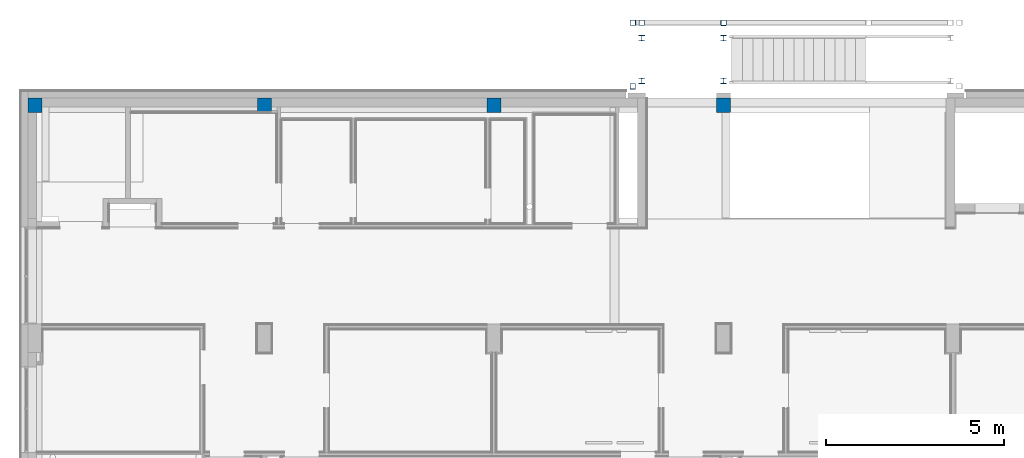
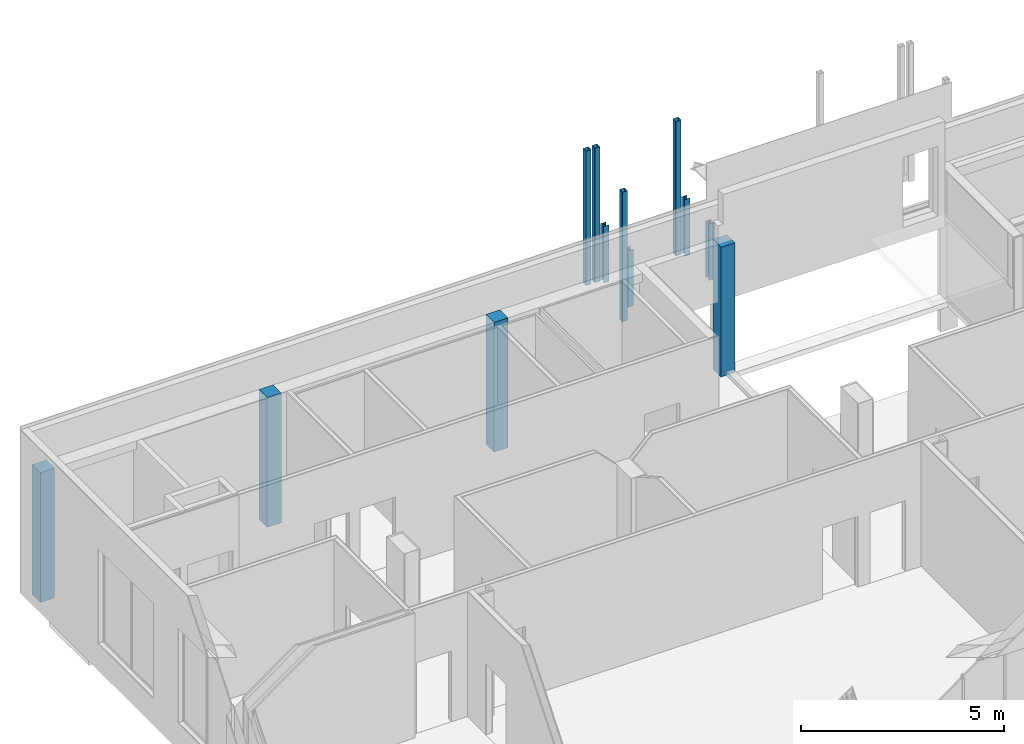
# One storey, part 3 of 29: 12 columns.
"""IFC2X3 building model written with IfcOpenShell, lengths in centimetres."""

import ifcopenshell
import ifcopenshell.guid

model = None  # the IFC model being written
_history = None  # IfcOwnerHistory: only IFC2X3 demands one
_inside = {}  # id of a spatial element -> (the spatial element, [elements in it])
_under = {}  # id of a project, library or spatial element -> (it, [spatial elements below it])
_declared = {}  # id of a project -> (the project, [libraries it declares])
_typed = {}  # id of a type object -> (the type object, [elements of that type])
_made_of = {}  # id of a material, layer set ... -> (it, [elements and type objects made of it])


def new_model(schema):
    """Start an empty IFC model of exactly this schema.

    Asked for "IFC4X3", IfcOpenShell would pick the latest addendum, in which some entities
    have other attributes; the version numbers below select the first issue.
    IFC2X3 requires an IfcOwnerHistory on every rooted entity: one is made here for all.
    """
    global model, _history
    if schema == "IFC4X3":
        model = ifcopenshell.file(schema_version=(4, 3, 0, 0))
    else:
        model = ifcopenshell.file(schema=schema)
    _inside.clear()
    _under.clear()
    _declared.clear()
    _typed.clear()
    _made_of.clear()
    _history = None
    if model.schema == "IFC2X3":
        org = make("IfcOrganization", Name="unknown")
        user = make(
            "IfcPersonAndOrganization",
            ThePerson=make("IfcPerson", FamilyName="unknown"),
            TheOrganization=org,
        )
        app = make(
            "IfcApplication",
            ApplicationDeveloper=org,
            Version="unknown",
            ApplicationFullName="unknown",
            ApplicationIdentifier="unknown",
        )
        _history = make(
            "IfcOwnerHistory",
            OwningUser=user,
            OwningApplication=app,
            ChangeAction="ADDED",
            CreationDate=0,
        )
    return model


def make(cls, **values):
    """One entity of the class cls with the attributes given. An attribute that is None is left unset."""
    return model.create_entity(
        cls, **{name: value for name, value in values.items() if value is not None}
    )


def entity(cls, *values):
    """Any entity or typed value of the class cls, its attributes in the order of the schema. None: left unset."""
    e = model.create_entity(cls)
    for i, value in enumerate(values):
        if value is not None:
            e[i] = value
    return e


def rooted(cls, **values):
    """An entity with a GlobalId (a new one), such as an element, a storey or a relation."""
    return make(cls, GlobalId=ifcopenshell.guid.new(), OwnerHistory=_history, **values)


def si_unit(unit_type, name, prefix=None):
    """IfcSIUnit, for example si_unit("LENGTHUNIT", "METRE", prefix="MILLI")."""
    return make("IfcSIUnit", UnitType=unit_type, Prefix=prefix, Name=name)


def converted_unit(unit_type, name, factor, base, dimensions=None, offset=None):
    """IfcConversionBasedUnit, such as the inch: factor (a typed value) times the base unit."""
    return make(
        "IfcConversionBasedUnit"
        if offset is None
        else "IfcConversionBasedUnitWithOffset",
        ConversionOffset=offset,
        Dimensions=None
        if dimensions is None
        else entity("IfcDimensionalExponents", *dimensions),
        UnitType=unit_type,
        Name=name,
        ConversionFactor=make(
            "IfcMeasureWithUnit", ValueComponent=factor, UnitComponent=base
        ),
    )


def derived_unit(unit_type, elements):
    """IfcDerivedUnit: a product of units, each with its exponent."""
    return make(
        "IfcDerivedUnit",
        Elements=[
            make("IfcDerivedUnitElement", Unit=unit, Exponent=power)
            for unit, power in elements
        ],
        UnitType=unit_type,
    )


def assignment(units):
    """IfcUnitAssignment: the units of a project."""
    return None if units is None else make("IfcUnitAssignment", Units=units)


def point(xyz):
    """IfcCartesianPoint."""
    return None if xyz is None else make("IfcCartesianPoint", Coordinates=xyz)


def direction(xyz):
    """IfcDirection."""
    return None if xyz is None else make("IfcDirection", DirectionRatios=xyz)


def frame(location, z_axis=None, x_axis=None):
    """IfcAxis2Placement3D, a coordinate frame: its origin and axes. An axis left out is left unset."""
    return make(
        "IfcAxis2Placement3D",
        Location=point(location),
        Axis=direction(z_axis),
        RefDirection=direction(x_axis),
    )


def frame_2d(location, x_axis=None):
    """IfcAxis2Placement2D, a coordinate frame in the plane: its origin and x axis."""
    return make(
        "IfcAxis2Placement2D", Location=point(location), RefDirection=direction(x_axis)
    )


def origin():
    """The frame at (0, 0, 0) with its axes left unset."""
    return frame((0.0, 0.0, 0.0))


def origin_2d_with_axis():
    """The frame at (0, 0) in the plane with the x axis (1, 0) written out."""
    return frame_2d((0.0, 0.0), x_axis=(1.0, 0.0))


def place(relative_to, where):
    """IfcLocalPlacement: puts the frame where relative to a parent placement (None: the world)."""
    return make(
        "IfcLocalPlacement", PlacementRelTo=relative_to, RelativePlacement=where
    )


def context(
    kind, dimensions, precision=None, world=None, true_north=None, identifier=None
):
    """IfcGeometricRepresentationContext, for example the 3D "Model" context."""
    return make(
        "IfcGeometricRepresentationContext",
        ContextIdentifier=identifier,
        ContextType=kind,
        CoordinateSpaceDimension=dimensions,
        Precision=precision,
        WorldCoordinateSystem=world,
        TrueNorth=true_north,
    )


def subcontext(parent, identifier, kind, view, scale=None):
    """IfcGeometricRepresentationSubContext, for example "Body" below "Model"."""
    return make(
        "IfcGeometricRepresentationSubContext",
        ContextIdentifier=identifier,
        ContextType=kind,
        ParentContext=parent,
        TargetScale=scale,
        TargetView=view,
    )


def project(units=None, contexts=None):
    """IfcProject with its units and contexts."""
    return rooted(
        "IfcProject",
        Name="project",
        RepresentationContexts=contexts,
        UnitsInContext=assignment(units),
    )


def spatial(cls, under=None, at=None, **own):
    """A site, building, storey or space (cls), placed at a placement, below another one or the project."""
    s = rooted(cls, ObjectPlacement=at, **own)
    if under is not None:
        _under.setdefault(under.id(), (under, []))[1].append(s)
    return s


def polyline(points):
    """IfcPolyline through the points."""
    return make("IfcPolyline", Points=[point(p) for p in points])


def circle_curve(where, radius):
    """IfcCircle in the frame where."""
    return make("IfcCircle", Position=where, Radius=radius)


def parameter(value):
    """IfcParameterValue: where a trimmed curve begins or ends, as a parameter of its basis curve."""
    return model.create_entity("IfcParameterValue", value)


def trimmed(basis, trim1, trim2, sense, master):
    """IfcTrimmedCurve: the piece of a basis curve between two trims."""
    return make(
        "IfcTrimmedCurve",
        BasisCurve=basis,
        Trim1=trim1,
        Trim2=trim2,
        SenseAgreement=sense,
        MasterRepresentation=master,
    )


def segment(curve, same_sense, transition):
    """IfcCompositeCurveSegment."""
    return make(
        "IfcCompositeCurveSegment",
        Transition=transition,
        SameSense=same_sense,
        ParentCurve=curve,
    )


def composite_curve(segments, self_intersect=None):
    """IfcCompositeCurve: segments joined end to end."""
    return make("IfcCompositeCurve", Segments=segments, SelfIntersect=self_intersect)


def profile(cls, at=None, kind="AREA", **sizes):
    """A parametric profile (cls). Its sizes go by their IFC names, for example OverallWidth=200.0."""
    return make(cls, ProfileType=kind, Position=at, **sizes)


def rectangle(**sizes):
    """IfcRectangleProfileDef."""
    return profile("IfcRectangleProfileDef", **sizes)


def outline(outer, holes=None, kind="AREA"):
    """IfcArbitraryClosedProfileDef: a profile drawn as a closed curve; with holes, ...WithVoids."""
    if holes is None:
        return make("IfcArbitraryClosedProfileDef", ProfileType=kind, OuterCurve=outer)
    return make(
        "IfcArbitraryProfileDefWithVoids",
        ProfileType=kind,
        OuterCurve=outer,
        InnerCurves=holes,
    )


def extrude(swept, where, along, depth):
    """IfcExtrudedAreaSolid: the profile swept, set in the frame where, extruded along a direction by depth."""
    return make(
        "IfcExtrudedAreaSolid",
        SweptArea=swept,
        Position=where,
        ExtrudedDirection=direction(along),
        Depth=depth,
    )


def shape(context_of_items, identifier, shape_type, items):
    """IfcShapeRepresentation: the items that make up one representation, for example the "Body"."""
    return make(
        "IfcShapeRepresentation",
        ContextOfItems=context_of_items,
        RepresentationIdentifier=identifier,
        RepresentationType=shape_type,
        Items=items,
    )


def source(mapping_origin, context_of_items, identifier, shape_type, items):
    """IfcRepresentationMap: a shape defined once, which mapped items show again and again."""
    return make(
        "IfcRepresentationMap",
        MappingOrigin=mapping_origin,
        MappedRepresentation=shape(context_of_items, identifier, shape_type, items),
    )


def transform(
    local_origin,
    x_axis=None,
    y_axis=None,
    z_axis=None,
    scale=None,
    scale2=None,
    scale3=None,
    uniform=True,
):
    """IfcCartesianTransformationOperator3D, or its non-uniform kind. x_axis, y_axis, z_axis: its Axis1, 2, 3."""
    if uniform:
        return make(
            "IfcCartesianTransformationOperator3D",
            Axis1=direction(x_axis),
            Axis2=direction(y_axis),
            LocalOrigin=point(local_origin),
            Scale=scale,
            Axis3=direction(z_axis),
        )
    return make(
        "IfcCartesianTransformationOperator3DnonUniform",
        Axis1=direction(x_axis),
        Axis2=direction(y_axis),
        LocalOrigin=point(local_origin),
        Scale=scale,
        Axis3=direction(z_axis),
        Scale2=scale2,
        Scale3=scale3,
    )


def mapped(mapping_source, mapping_target):
    """IfcMappedItem: shows the shape of a source again, moved by a transform."""
    return make(
        "IfcMappedItem", MappingSource=mapping_source, MappingTarget=mapping_target
    )


def material(Name=None, Category=None):
    """IfcMaterial."""
    return make("IfcMaterial", Name=Name, Category=Category)


def made_of(thing, what):
    """Note that an element or type object is made of a material, layer set ...; save() writes the relation."""
    if what is not None:
        _made_of.setdefault(what.id(), (what, []))[1].append(thing)
    return thing


def type_object(cls, material=None, **own):
    """A type object (cls), such as IfcWallType, which elements share."""
    return made_of(rooted(cls, **own), material)


def type_shapes(of_type, sources):
    """Give a type object the sources (RepresentationMaps) that its elements show as mapped items."""
    of_type.RepresentationMaps = sources


def element(
    cls,
    number,
    at=None,
    inside=None,
    cuts=None,
    type_object=None,
    material=None,
    context=None,
    identifier="Body",
    shape_type=None,
    held_by="IfcProductDefinitionShape",
    body=None,
    shapes=None,
    **own,
):
    """One element of the class cls, such as IfcWall. Its Tag is "e" and its number.

    at: its placement. inside: the storey or other place that contains it. cuts: it is an
    opening in that element (IfcRelVoidsElement). A single representation is given by context,
    identifier, shape_type and body (its items); several are given by shapes. held_by: the class
    of the entity that holds the representations. save() writes the other relations.
    """
    e = rooted(cls, Tag="e%d" % number, ObjectPlacement=at, **own)
    if body is not None:
        shapes = [shape(context, identifier, shape_type, body)]
    if shapes is not None:
        e.Representation = make(held_by, Representations=shapes)
    if inside is not None:
        _inside.setdefault(inside.id(), (inside, []))[1].append(e)
    if cuts is not None:
        rooted(
            "IfcRelVoidsElement", RelatingBuildingElement=cuts, RelatedOpeningElement=e
        )
    if type_object is not None:
        _typed.setdefault(type_object.id(), (type_object, []))[1].append(e)
    return made_of(e, material)


def aggregate(whole, parts):
    """IfcRelAggregates: a whole, such as a stair, and the parts it consists of."""
    return rooted("IfcRelAggregates", RelatingObject=whole, RelatedObjects=parts)


def save(model, path):
    """Write the relations noted so far, then the file.

    IfcRelAggregates (storeys below a building ...), IfcRelContainedInSpatialStructure (elements
    in a storey), IfcRelDefinesByType, IfcRelAssociatesMaterial and IfcRelDeclares: one each for
    every whole, place, type object, material and project.
    """
    for whole, parts in _under.values():
        aggregate(whole, parts)
    for where, things in _inside.values():
        rooted(
            "IfcRelContainedInSpatialStructure",
            RelatedElements=things,
            RelatingStructure=where,
        )
    for kind, things in _typed.values():
        rooted("IfcRelDefinesByType", RelatedObjects=things, RelatingType=kind)
    for what, things in _made_of.values():
        rooted("IfcRelAssociatesMaterial", RelatedObjects=things, RelatingMaterial=what)
    for by, libraries in _declared.values():
        rooted("IfcRelDeclares", RelatingContext=by, RelatedDefinitions=libraries)
    model.write(path)


model = new_model("IFC2X3")

# Units and contexts
model_context = context("Model", 3, precision=0.001, world=origin(), true_north=direction((6.12303176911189e-17, 1.0)))
body_context = subcontext(model_context, "Body", "Model", "MODEL_VIEW")
ifc_project = project(units=[si_unit("LENGTHUNIT", "METRE", prefix="CENTI"), si_unit("AREAUNIT", "SQUARE_METRE"), si_unit("VOLUMEUNIT", "CUBIC_METRE"), converted_unit("PLANEANGLEUNIT", "DEGREE", entity("IfcRatioMeasure", 0.0174532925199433), si_unit("PLANEANGLEUNIT", "RADIAN"), dimensions=[0, 0, 0, 0, 0, 0, 0]), si_unit("MASSUNIT", "GRAM", prefix="KILO"), derived_unit("MASSDENSITYUNIT", [(si_unit("MASSUNIT", "GRAM", prefix="KILO"), 1), (si_unit("LENGTHUNIT", "METRE"), -3)]), derived_unit("MOMENTOFINERTIAUNIT", [(si_unit("LENGTHUNIT", "METRE"), 4)]), si_unit("TIMEUNIT", "SECOND"), si_unit("FREQUENCYUNIT", "HERTZ"), si_unit("THERMODYNAMICTEMPERATUREUNIT", "DEGREE_CELSIUS"), derived_unit("THERMALTRANSMITTANCEUNIT", [(si_unit("MASSUNIT", "GRAM", prefix="KILO"), 1), (si_unit("THERMODYNAMICTEMPERATUREUNIT", "KELVIN"), -1), (si_unit("TIMEUNIT", "SECOND"), -3)]), derived_unit("VOLUMETRICFLOWRATEUNIT", [(si_unit("LENGTHUNIT", "METRE"), 3), (si_unit("TIMEUNIT", "SECOND"), -1)]), si_unit("ELECTRICCURRENTUNIT", "AMPERE"), si_unit("ELECTRICVOLTAGEUNIT", "VOLT"), si_unit("POWERUNIT", "WATT"), si_unit("FORCEUNIT", "NEWTON", prefix="KILO"), si_unit("ILLUMINANCEUNIT", "LUX"), si_unit("LUMINOUSFLUXUNIT", "LUMEN"), si_unit("LUMINOUSINTENSITYUNIT", "CANDELA"), derived_unit("USERDEFINED", [(si_unit("MASSUNIT", "GRAM", prefix="KILO"), -1), (si_unit("LENGTHUNIT", "METRE"), -2), (si_unit("TIMEUNIT", "SECOND"), 3), (si_unit("LUMINOUSFLUXUNIT", "LUMEN"), 1)]), derived_unit("LINEARVELOCITYUNIT", [(si_unit("LENGTHUNIT", "METRE"), 1), (si_unit("TIMEUNIT", "SECOND"), -1)]), si_unit("PRESSUREUNIT", "PASCAL"), derived_unit("USERDEFINED", [(si_unit("LENGTHUNIT", "METRE"), -2), (si_unit("MASSUNIT", "GRAM", prefix="KILO"), 1), (si_unit("TIMEUNIT", "SECOND"), -2)]), derived_unit("LINEARFORCEUNIT", [(si_unit("MASSUNIT", "GRAM", prefix="KILO"), 1), (si_unit("LENGTHUNIT", "METRE"), 1), (si_unit("TIMEUNIT", "SECOND"), -2), (si_unit("LENGTHUNIT", "METRE"), -1)]), derived_unit("PLANARFORCEUNIT", [(si_unit("MASSUNIT", "GRAM", prefix="KILO"), 1), (si_unit("LENGTHUNIT", "METRE"), 1), (si_unit("TIMEUNIT", "SECOND"), -2), (si_unit("LENGTHUNIT", "METRE"), -2)])], contexts=[model_context])

# Site, building, storey
site_placement = place(None, origin())
site = spatial("IfcSite", under=ifc_project, at=site_placement, Name="Default", CompositionType="ELEMENT")
building_placement = place(site_placement, origin())
building = spatial("IfcBuilding", under=site, at=building_placement, CompositionType="ELEMENT")
storey_placement = place(building_placement, frame((0.0, 0.0, 545.0)))
storey = spatial("IfcBuildingStorey", under=building, at=storey_placement, Name="Poziom 1K +5,45", CompositionType="ELEMENT", Elevation=544.999999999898)

# Columns
ifc_material_1 = material(Name="_Beton, C25/30")
column_type_1 = type_object("IfcColumnType", Name="Beton-słup prostokątny:Słup żelbetowy 40x40cm", PredefinedType="COLUMN", material=ifc_material_1)
shared_shape_1 = source(origin(), body_context, "Body", "SweptSolid", [
    extrude(rectangle(XDim=40.0, YDim=40.0, at=frame_2d((0.0, -2.16715534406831e-13), x_axis=(1.0, 0.0))), frame((-2269.26510899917, 2085.12745207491, 545.0), z_axis=(0.0, 0.0, 1.0), x_axis=(0.0, -1.0, 0.0)), (0.0, 0.0, 1.0), 390.000000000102),
])
type_shapes(column_type_1, [shared_shape_1])
column_1_placement = place(storey_placement, frame((0.0, 0.0, -545.0)))
element("IfcColumn", 1, at=column_1_placement, inside=storey, type_object=column_type_1, Name="Beton-słup prostokątny:Słup żelbetowy 40x40cm", ObjectType="Beton-słup prostokątny:Słup żelbetowy 40x40cm", context=body_context, shape_type="MappedRepresentation", body=[
    mapped(shared_shape_1, transform((0.0, 0.0, 0.0), scale=1.0)),
])
column_type_2 = type_object("IfcColumnType", Name="Beton-słup prostokątny:Słup żelbetowy 40x40cm", PredefinedType="COLUMN", material=ifc_material_1)
shared_shape_2 = source(origin(), body_context, "Body", "SweptSolid", [
    extrude(rectangle(XDim=40.0, YDim=40.0, at=frame_2d((2.16715534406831e-13, 0.0), x_axis=(1.0, 0.0))), frame((-1624.26510899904, 2085.12745207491, 545.0), z_axis=(0.0, 0.0, 1.0), x_axis=(0.0, -1.0, 0.0)), (0.0, 0.0, 1.0), 390.000000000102),
])
type_shapes(column_type_2, [shared_shape_2])
column_2_placement = place(storey_placement, frame((0.0, 0.0, -545.0)))
element("IfcColumn", 2, at=column_2_placement, inside=storey, type_object=column_type_2, Name="Beton-słup prostokątny:Słup żelbetowy 40x40cm", ObjectType="Beton-słup prostokątny:Słup żelbetowy 40x40cm", context=body_context, shape_type="MappedRepresentation", body=[
    mapped(shared_shape_2, transform((0.0, 0.0, 0.0), scale=1.0)),
])
column_type_3 = type_object("IfcColumnType", Name="Beton-słup prostokątny:Słup żelbetowy 40x40cm", PredefinedType="COLUMN", material=ifc_material_1)
shared_shape_3 = source(origin(), body_context, "Body", "SweptSolid", [
    extrude(rectangle(XDim=40.0, YDim=40.0, at=origin_2d_with_axis()), frame((-979.265108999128, 2085.1274520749, 545.0), z_axis=(0.0, 0.0, 1.0), x_axis=(0.0, -1.0, 0.0)), (0.0, 0.0, 1.0), 390.000000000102),
])
type_shapes(column_type_3, [shared_shape_3])
column_3_placement = place(storey_placement, frame((0.0, 0.0, -545.0)))
element("IfcColumn", 3, at=column_3_placement, inside=storey, type_object=column_type_3, Name="Beton-słup prostokątny:Słup żelbetowy 40x40cm", ObjectType="Beton-słup prostokątny:Słup żelbetowy 40x40cm", context=body_context, shape_type="MappedRepresentation", body=[
    mapped(shared_shape_3, transform((0.0, 0.0, 0.0), scale=1.0)),
])
column_type_4 = type_object("IfcColumnType", Name="Beton-słup prostokątny:Słup żelbetowy 40x40cm", PredefinedType="COLUMN", material=ifc_material_1)
shared_shape_4 = source(origin(), body_context, "Body", "SweptSolid", [
    extrude(rectangle(XDim=40.0, YDim=40.0, at=frame_2d((2.16715534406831e-13, -2.16715534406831e-13), x_axis=(1.0, 0.0))), frame((-2914.26510657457, 2085.12745207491, 545.0), z_axis=(0.0, 0.0, 1.0), x_axis=(0.0, -1.0, 0.0)), (0.0, 0.0, 1.0), 390.000000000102),
])
type_shapes(column_type_4, [shared_shape_4])
column_4_placement = place(storey_placement, frame((0.0, 0.0, -545.0)))
element("IfcColumn", 4, at=column_4_placement, inside=storey, type_object=column_type_4, Name="Beton-słup prostokątny:Słup żelbetowy 40x40cm", ObjectType="Beton-słup prostokątny:Słup żelbetowy 40x40cm", context=body_context, shape_type="MappedRepresentation", body=[
    mapped(shared_shape_4, transform((0.0, 0.0, 0.0), scale=1.0)),
])
ifc_material_2 = material(Name="Metal — stal — Stal")
column_type_5 = type_object("IfcColumnType", Name="STAL RK - Ksztaltowniki zamkniete kwadratowe_Słup:RK150x6", PredefinedType="COLUMN", material=ifc_material_2)
shared_shape_5 = source(origin(), body_context, "Body", "SweptSolid", [
    extrude(outline(composite_curve([segment(polyline([(-6.29999999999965, -7.50000000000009), (6.29999999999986, -7.50000000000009)]), True, "CONTINUOUS"), segment(trimmed(circle_curve(frame_2d((6.29999999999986, -6.29999999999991), x_axis=(1.0, 0.0)), 1.20000000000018), [parameter(270.0)], [parameter(360.0)], True, "PARAMETER"), True, "CONTINUOUS"), segment(polyline([(7.50000000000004, -6.29999999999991), (7.50000000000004, 6.29999999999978)]), True, "CONTINUOUS"), segment(trimmed(circle_curve(frame_2d((6.29999999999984, 6.29999999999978), x_axis=(1.0, 0.0)), 1.2000000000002), [parameter(360.0)], [parameter(89.9999999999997)], True, "PARAMETER"), True, "CONTINUOUS"), segment(polyline([(6.29999999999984, 7.49999999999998), (-6.30000000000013, 7.49999999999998)]), True, "CONTINUOUS"), segment(trimmed(circle_curve(frame_2d((-6.30000000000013, 6.30000000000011), x_axis=(1.0, 0.0)), 1.19999999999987), [parameter(89.9999999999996)], [parameter(180.0)], True, "PARAMETER"), True, "CONTINUOUS"), segment(polyline([(-7.5, 6.30000000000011), (-7.5, -6.29999999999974)]), True, "CONTINUOUS"), segment(trimmed(circle_curve(frame_2d((-6.29999999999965, -6.29999999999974), x_axis=(1.0, 0.0)), 1.20000000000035), [parameter(180.0)], [parameter(269.999999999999)], True, "PARAMETER"), True, "CONTINUOUS")], self_intersect=False), holes=[composite_curve([segment(trimmed(circle_curve(frame_2d((-6.30000000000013, 6.29999999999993), x_axis=(1.0, 0.0)), 0.599999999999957), [parameter(90.0000000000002)], [parameter(180.0)], True, "PARAMETER"), False, "CONTINUOUS"), segment(polyline([(-6.30000000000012, 6.89999999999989), (6.29999999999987, 6.89999999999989)]), True, "CONTINUOUS"), segment(trimmed(circle_curve(frame_2d((6.29999999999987, 6.29999999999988), x_axis=(1.0, 0.0)), 0.600000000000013), [parameter(359.999999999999)], [parameter(89.9999999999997)], True, "PARAMETER"), False, "CONTINUOUS"), segment(polyline([(6.89999999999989, 6.29999999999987), (6.89999999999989, -6.30000000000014)]), True, "CONTINUOUS"), segment(trimmed(circle_curve(frame_2d((6.2999999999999, -6.30000000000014), x_axis=(1.0, 0.0)), 0.599999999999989), [parameter(269.999999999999)], [parameter(360.0)], True, "PARAMETER"), False, "CONTINUOUS"), segment(polyline([(6.29999999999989, -6.90000000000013), (-6.3000000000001, -6.90000000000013)]), True, "CONTINUOUS"), segment(trimmed(circle_curve(frame_2d((-6.3000000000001, -6.30000000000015), x_axis=(1.0, 0.0)), 0.599999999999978), [parameter(180.0)], [parameter(270.0)], True, "PARAMETER"), False, "CONTINUOUS"), segment(polyline([(-6.90000000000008, -6.30000000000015), (-6.90000000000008, 6.29999999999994)]), True, "CONTINUOUS")], self_intersect=False)]), frame((0.0, 0.0, 756.0)), (0.0, 0.0, 1.0), 404.000000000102),
])
type_shapes(column_type_5, [shared_shape_5])
for number, where in (
    (5, (-1234.15433612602, 2317.41468189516, -545.0)),
    (6, (-1209.22475324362, 2317.41468189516, -545.0)),
    (7, (-979.094309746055, 2316.91468189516, -545.0)),
):
    element("IfcColumn", number, at=place(storey_placement, frame(where)), inside=storey, type_object=column_type_5, material=ifc_material_2, Name="STAL RK - Ksztaltowniki zamkniete kwadratowe_Słup:RK150x6", ObjectType="STAL RK - Ksztaltowniki zamkniete kwadratowe_Słup:RK150x6", context=body_context, shape_type="MappedRepresentation", body=[
        mapped(shared_shape_5, transform((0.0, 0.0, 0.0), scale=1.0)),
    ])
column_type_6 = type_object("IfcColumnType", Name="STAL RK - Ksztaltowniki zamkniete kwadratowe_Słup:RK150x6", PredefinedType="COLUMN", material=ifc_material_2)
shared_shape_6 = source(origin(), body_context, "Body", "SweptSolid", [
    extrude(outline(composite_curve([segment(polyline([(-6.29999999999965, -7.50000000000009), (6.29999999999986, -7.50000000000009)]), True, "CONTINUOUS"), segment(trimmed(circle_curve(frame_2d((6.29999999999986, -6.29999999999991), x_axis=(1.0, 0.0)), 1.20000000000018), [parameter(270.0)], [parameter(360.0)], True, "PARAMETER"), True, "CONTINUOUS"), segment(polyline([(7.50000000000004, -6.29999999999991), (7.50000000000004, 6.29999999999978)]), True, "CONTINUOUS"), segment(trimmed(circle_curve(frame_2d((6.29999999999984, 6.29999999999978), x_axis=(1.0, 0.0)), 1.2000000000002), [parameter(360.0)], [parameter(89.9999999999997)], True, "PARAMETER"), True, "CONTINUOUS"), segment(polyline([(6.29999999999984, 7.49999999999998), (-6.30000000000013, 7.49999999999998)]), True, "CONTINUOUS"), segment(trimmed(circle_curve(frame_2d((-6.30000000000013, 6.30000000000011), x_axis=(1.0, 0.0)), 1.19999999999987), [parameter(89.9999999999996)], [parameter(180.0)], True, "PARAMETER"), True, "CONTINUOUS"), segment(polyline([(-7.5, 6.30000000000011), (-7.5, -6.29999999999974)]), True, "CONTINUOUS"), segment(trimmed(circle_curve(frame_2d((-6.29999999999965, -6.29999999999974), x_axis=(1.0, 0.0)), 1.20000000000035), [parameter(180.0)], [parameter(269.999999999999)], True, "PARAMETER"), True, "CONTINUOUS")], self_intersect=False), holes=[composite_curve([segment(trimmed(circle_curve(frame_2d((-6.30000000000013, 6.29999999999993), x_axis=(1.0, 0.0)), 0.599999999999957), [parameter(90.0000000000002)], [parameter(180.0)], True, "PARAMETER"), False, "CONTINUOUS"), segment(polyline([(-6.30000000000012, 6.89999999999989), (6.29999999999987, 6.89999999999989)]), True, "CONTINUOUS"), segment(trimmed(circle_curve(frame_2d((6.29999999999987, 6.29999999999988), x_axis=(1.0, 0.0)), 0.600000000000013), [parameter(359.999999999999)], [parameter(89.9999999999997)], True, "PARAMETER"), False, "CONTINUOUS"), segment(polyline([(6.89999999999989, 6.29999999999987), (6.89999999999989, -6.30000000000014)]), True, "CONTINUOUS"), segment(trimmed(circle_curve(frame_2d((6.2999999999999, -6.30000000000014), x_axis=(1.0, 0.0)), 0.599999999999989), [parameter(269.999999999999)], [parameter(360.0)], True, "PARAMETER"), False, "CONTINUOUS"), segment(polyline([(6.29999999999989, -6.90000000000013), (-6.3000000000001, -6.90000000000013)]), True, "CONTINUOUS"), segment(trimmed(circle_curve(frame_2d((-6.3000000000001, -6.30000000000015), x_axis=(1.0, 0.0)), 0.599999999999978), [parameter(180.0)], [parameter(270.0)], True, "PARAMETER"), False, "CONTINUOUS"), segment(polyline([(-6.90000000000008, -6.30000000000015), (-6.90000000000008, 6.29999999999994)]), True, "CONTINUOUS")], self_intersect=False)]), frame((0.0, 0.0, 756.0)), (0.0, 0.0, 1.0), 389.000000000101),
])
type_shapes(column_type_6, [shared_shape_6])
column_5_placement = place(storey_placement, frame((-1234.26501886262, 2138.45818451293, -545.0)))
element("IfcColumn", 8, at=column_5_placement, inside=storey, type_object=column_type_6, material=ifc_material_2, Name="STAL RK - Ksztaltowniki zamkniete kwadratowe_Słup:RK150x6", ObjectType="STAL RK - Ksztaltowniki zamkniete kwadratowe_Słup:RK150x6", context=body_context, shape_type="MappedRepresentation", body=[
    mapped(shared_shape_6, transform((0.0, 0.0, 0.0), scale=1.0)),
])
column_type_7 = type_object("IfcColumnType", Name="Słup HE-A:HEA160", PredefinedType="COLUMN", material=ifc_material_2)
shared_shape_7 = source(origin(), body_context, "Body", "SweptSolid", [
    extrude(outline(composite_curve([segment(polyline([(6.7, -8.0), (7.6, -8.0)]), True, "CONTINUOUS"), segment(polyline([(7.6, -8.0), (7.6, 8.0)]), True, "CONTINUOUS"), segment(polyline([(7.6, 8.0), (6.7, 8.0)]), True, "CONTINUOUS"), segment(polyline([(6.7, 8.0), (6.7, 1.8)]), True, "CONTINUOUS"), segment(trimmed(circle_curve(frame_2d((5.2, 1.8), x_axis=(1.0, 0.0)), 1.5), [parameter(270.0)], [parameter(0.0)], True, "PARAMETER"), False, "CONTINUOUS"), segment(polyline([(5.2, 0.3), (-5.2, 0.3)]), True, "CONTINUOUS"), segment(trimmed(circle_curve(frame_2d((-5.2, 1.8), x_axis=(0.0, -1.0)), 1.5), [parameter(270.0)], [parameter(0.0)], True, "PARAMETER"), False, "CONTINUOUS"), segment(polyline([(-6.7, 1.8), (-6.7, 8.0)]), True, "CONTINUOUS"), segment(polyline([(-6.7, 8.0), (-7.6, 8.0)]), True, "CONTINUOUS"), segment(polyline([(-7.6, 8.0), (-7.6, -8.0)]), True, "CONTINUOUS"), segment(polyline([(-7.6, -8.0), (-6.7, -8.0)]), True, "CONTINUOUS"), segment(polyline([(-6.7, -8.0), (-6.7, -1.8)]), True, "CONTINUOUS"), segment(trimmed(circle_curve(frame_2d((-5.2, -1.8), x_axis=(-1.0, 0.0)), 1.5), [parameter(270.0)], [parameter(0.0)], True, "PARAMETER"), False, "CONTINUOUS"), segment(polyline([(-5.2, -0.299999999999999), (5.2, -0.299999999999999)]), True, "CONTINUOUS"), segment(trimmed(circle_curve(frame_2d((5.2, -1.8), x_axis=(0.0, 1.0)), 1.5), [parameter(270.0)], [parameter(0.0)], True, "PARAMETER"), False, "CONTINUOUS"), segment(polyline([(6.7, -1.8), (6.7, -8.0)]), True, "CONTINUOUS")], self_intersect=False)), frame((0.0, 0.0, 781.499999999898), z_axis=(0.0, 0.0, 1.0), x_axis=(0.0, -1.0, 0.0)), (0.0, 0.0, 1.0), 170.100000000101),
])
type_shapes(column_type_7, [shared_shape_7])
for number, where in (
    (9, (-979.094309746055, 2273.8124511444, -545.0)),
    (10, (-979.094309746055, 2154.0124511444, -545.0)),
    (11, (-1209.22475324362, 2273.8124511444, -545.0)),
    (12, (-1209.22475324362, 2154.0124511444, -545.0)),
):
    element("IfcColumn", number, at=place(storey_placement, frame(where)), inside=storey, type_object=column_type_7, Name="Słup HE-A:HEA160", ObjectType="Słup HE-A:HEA160", context=body_context, shape_type="MappedRepresentation", body=[
        mapped(shared_shape_7, transform((0.0, 0.0, 0.0), scale=1.0)),
    ])

save(model, "model.ifc")
